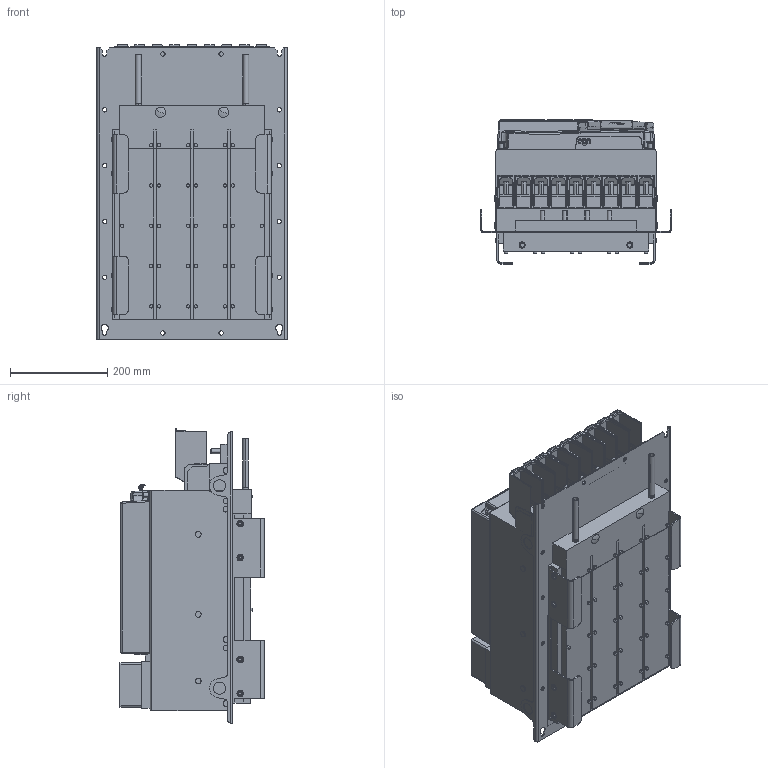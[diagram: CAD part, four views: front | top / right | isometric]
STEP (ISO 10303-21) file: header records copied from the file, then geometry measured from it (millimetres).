
FILE_DESCRIPTION (( 'STEP AP214' ), '1' );
FILE_NAME ('10060971_000.STEP', '2021-03-02T13:42:15', ( '' ), ( '' ), 'SwSTEP 2.0', 'SolidWorks 2019', '' );
FILE_SCHEMA (( 'AUTOMOTIVE_DESIGN' ));
Length unit declared in the file: millimetre
Products named in the file (14): 10060971_000; 10051076_000_Kundenmodell; 10061502_000_Deckel (Kundenmodell); 10061503_000; 10061504_000_Gehеsebaugruppe ohne L’terkarte; 10045475_000_Geh„usebaugruppe F6-7 (Kundenmodell); 10043622_000_70F6 Klemme (Kundenmodell); 10059762_000_Kundenmodell mit Geberbuchsen; 10059765_000; 10061523_000; 10059764_000_Blindabdeckung (Kundenmodell); 10061506_000; 10061522_000; 10060970_000_Leistungsteil + BW F6-7 TW5 (Kundenmodell)
Assembly tree (13 placements, depth 4):
  10060971_000
    10060970_000_Leistungsteil + BW F6-7 TW5 (Kundenmodell)
      10043622_000_70F6 Klemme (Kundenmodell)
        10061522_000
      10061506_000
      10061523_000
    10045475_000_Geh„usebaugruppe F6-7 (Kundenmodell)
      10061502_000_Deckel (Kundenmodell)
        10061503_000
      10061504_000_Gehеsebaugruppe ohne L’terkarte
    10051076_000_Kundenmodell
      10059764_000_Blindabdeckung (Kundenmodell)
        10059765_000
      10059762_000_Kundenmodell mit Geberbuchsen
Bounding box: 392 x 296.9 x 606.26 mm (x, y, z)
Volume: 45756398.4 mm3; surface area: 2784813.6 mm2
Topology: 13 solids, 13 shells, 3510 faces, 8939 edges, 5523 vertices
Faces by surface type: plane 1753, cylinder 1128, bspline 278, sphere 176, torus 113, cone 62
Entity records: 112712 total; most frequent: CARTESIAN_POINT 29467, ORIENTED_EDGE 17656, DIRECTION 16649, EDGE_CURVE 8828, AXIS2_PLACEMENT_3D 5577, VERTEX_POINT 5520, LINE 5495, VECTOR 5495
